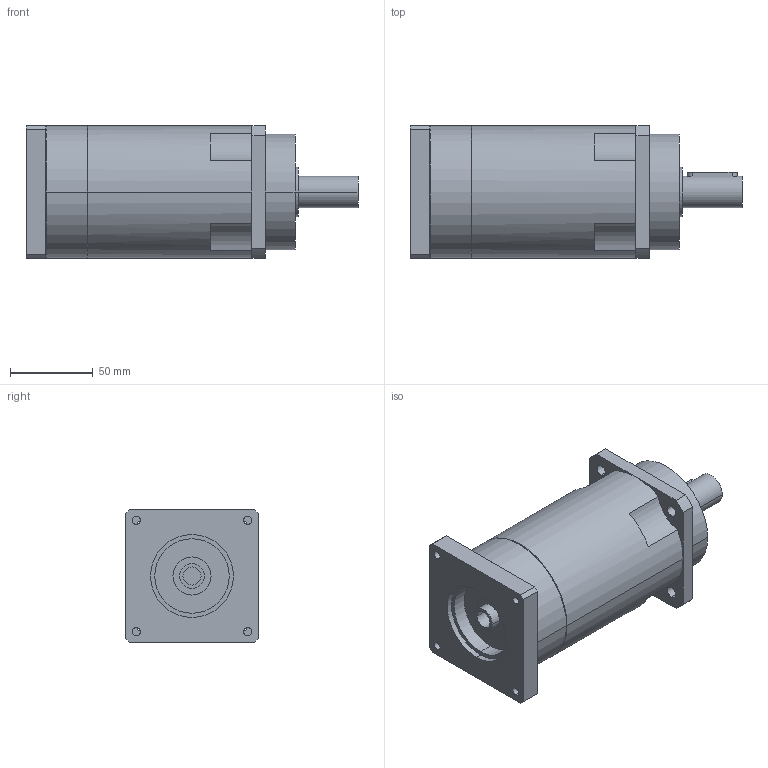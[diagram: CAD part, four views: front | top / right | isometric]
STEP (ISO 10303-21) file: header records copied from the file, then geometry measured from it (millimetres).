
FILE_DESCRIPTION(('CoCreate Modeling STEP Export'),'2;1');
FILE_NAME('GPR100_ig-48-64-80-100-120-144-180-216_19_B5_11_P21.stp','2014-08-26T11:53:06',(''),(''),'CoCreate Modeling STEP processor for AP214 (Solid Model)','CoCreate Modeling 16.00C 25-Feb-2009 (C) Parametric Technology GmbH','');
FILE_SCHEMA(('AUTOMOTIVE_DESIGN { 1 0 10303 214 1 1 1 1 }'));
Length unit declared in the file: millimetre
Products named in the file (2): GPR100_ig-48-64-80-100-120-144-180-216_19_B5_11_P21
Assembly tree (1 placements, depth 2):
  GPR100_ig-48-64-80-100-120-144-180-216_19_B5_11_P21
    GPR100_ig-48-64-80-100-120-144-180-216_19_B5_11_P21
Bounding box: 200.4 x 80 x 80 mm (x, y, z)
Volume: 801670 mm3; surface area: 64330.1 mm2
Topology: 1 solids, 1 shells, 89 faces, 245 edges, 167 vertices
Faces by surface type: cylinder 52, plane 31, cone 6
Entity records: 2602 total; most frequent: ORIENTED_EDGE 486, CARTESIAN_POINT 472, DIRECTION 386, EDGE_CURVE 243, VERTEX_POINT 167, AXIS2_PLACEMENT_3D 145, EDGE_LOOP 116, VECTOR 96
